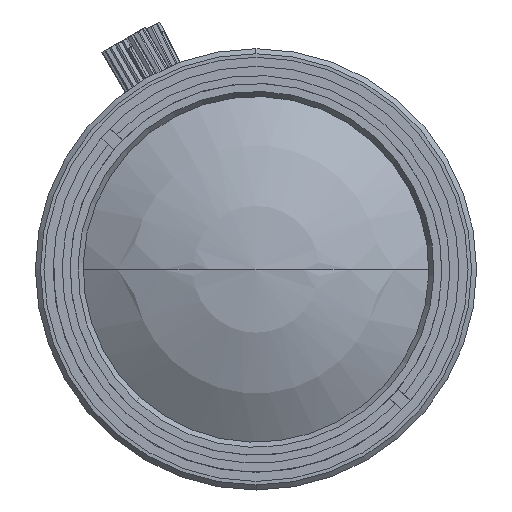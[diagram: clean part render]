
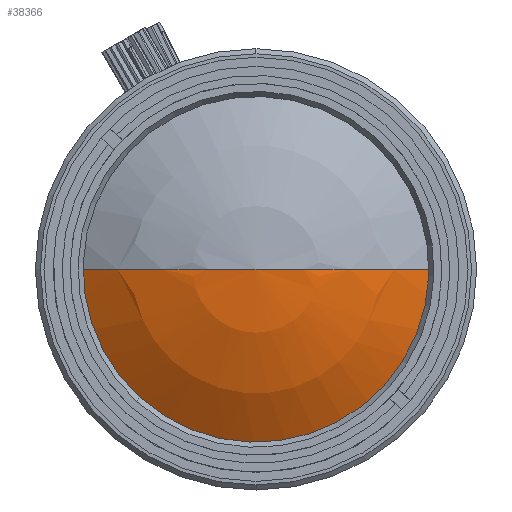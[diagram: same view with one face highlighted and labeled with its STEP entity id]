
A CAD part, left-side view. The second image highlights one B-rep face of the part: STEP entity #38366.
In plain terms, the highlighted spherical face has radius 24.833 mm.
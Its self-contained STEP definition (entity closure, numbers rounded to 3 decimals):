
#1336 = CARTESIAN_POINT ( 'NONE',  ( 24.833, 0., 0. ) ) ;
#1993 = AXIS2_PLACEMENT_3D ( 'NONE', #10802, #23272, #22774 ) ;
#2771 = EDGE_LOOP ( 'NONE', ( #35818, #31455, #41797 ) ) ;
#3475 = AXIS2_PLACEMENT_3D ( 'NONE', #49174, #49427, #45020 ) ;
#3811 = AXIS2_PLACEMENT_3D ( 'NONE', #14026, #41754, #14273 ) ;
#5922 = VERTEX_POINT ( 'NONE', #47354 ) ;
#10802 = CARTESIAN_POINT ( 'NONE',  ( 4.496, 0., 0. ) ) ;
#14026 = CARTESIAN_POINT ( 'NONE',  ( 24.833, 0., 0. ) ) ;
#14273 = DIRECTION ( 'NONE',  ( 0., 1., 0. ) ) ;
#20511 = CARTESIAN_POINT ( 'NONE',  ( 4.496, 0., -14.25 ) ) ;
#21165 = EDGE_CURVE ( 'NONE', #33329, #5922, #30354, .T. ) ;
#22774 = DIRECTION ( 'NONE',  ( 0., 0., 1. ) ) ;
#23090 = EDGE_CURVE ( 'NONE', #5922, #32470, #25839, .T. ) ;
#23272 = DIRECTION ( 'NONE',  ( -1., 0., 0. ) ) ;
#23499 = CARTESIAN_POINT ( 'NONE',  ( 4.496, -14.25, 0. ) ) ;
#25839 = CIRCLE ( 'NONE', #3475, 14.25 ) ;
#26217 = FACE_OUTER_BOUND ( 'NONE', #2771, .T. ) ;
#30354 = CIRCLE ( 'NONE', #38647, 24.833 ) ;
#31455 = ORIENTED_EDGE ( 'NONE', *, *, #21165, .T. ) ;
#32470 = VERTEX_POINT ( 'NONE', #20511 ) ;
#33329 = VERTEX_POINT ( 'NONE', #23499 ) ;
#33462 = CIRCLE ( 'NONE', #1993, 14.25 ) ;
#35039 = EDGE_CURVE ( 'NONE', #32470, #33329, #33462, .T. ) ;
#35818 = ORIENTED_EDGE ( 'NONE', *, *, #35039, .T. ) ;
#38366 = ADVANCED_FACE ( 'NONE', ( #26217 ), #42016, .T. ) ;
#38647 = AXIS2_PLACEMENT_3D ( 'NONE', #1336, #44632, #40755 ) ;
#40755 = DIRECTION ( 'NONE',  ( 0., 1., 0. ) ) ;
#41754 = DIRECTION ( 'NONE',  ( 1., 0., 0. ) ) ;
#41797 = ORIENTED_EDGE ( 'NONE', *, *, #23090, .T. ) ;
#42016 = SPHERICAL_SURFACE ( 'NONE', #3811, 24.833 ) ;
#44632 = DIRECTION ( 'NONE',  ( 0., 0., -1. ) ) ;
#45020 = DIRECTION ( 'NONE',  ( 0., 0., 1. ) ) ;
#47354 = CARTESIAN_POINT ( 'NONE',  ( 4.496, 14.25, 0. ) ) ;
#49174 = CARTESIAN_POINT ( 'NONE',  ( 4.496, 0., 0. ) ) ;
#49427 = DIRECTION ( 'NONE',  ( -1., 0., 0. ) ) ;
